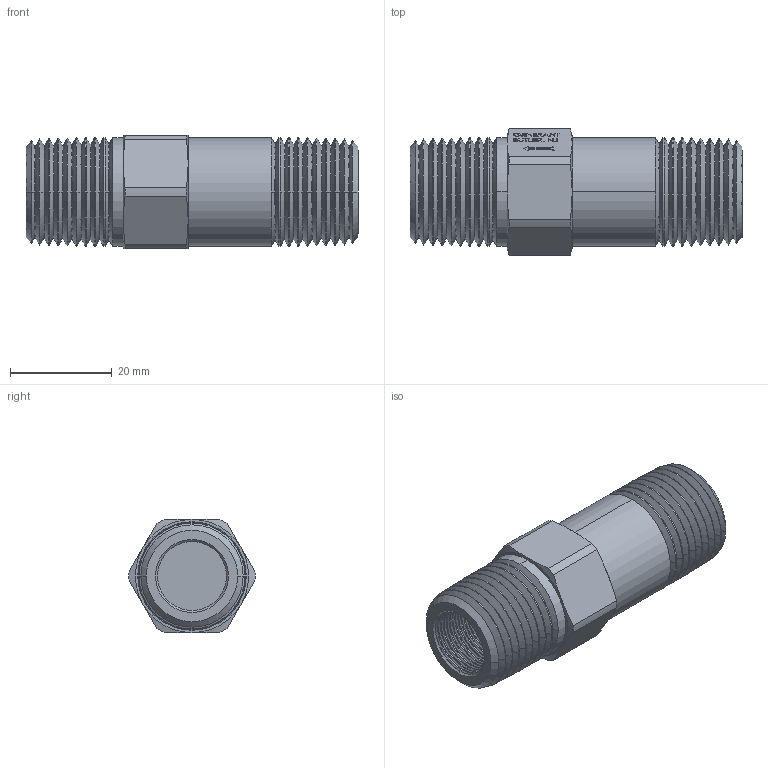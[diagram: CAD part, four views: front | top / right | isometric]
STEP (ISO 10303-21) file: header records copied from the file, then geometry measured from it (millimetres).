
FILE_DESCRIPTION (( 'STEP AP203' ), '1' );
FILE_NAME ('ACV-8P.STEP', '2013-04-16T13:19:20', ( '' ), ( '' ), 'SwSTEP 2.0', 'SolidWorks 2011', '' );
FILE_SCHEMA (( 'CONFIG_CONTROL_DESIGN' ));
Length unit declared in the file: inch
Products named in the file (2): ACV-8P; Part4^ACV-8P_CM
Assembly tree (1 placements, depth 2):
  ACV-8P
    Part4^ACV-8P_CM
Bounding box: 65.15 x 24.76 x 22.23 mm (x, y, z)
Volume: 16280.9 mm3; surface area: 9085.8 mm2
Topology: 1 solids, 1 shells, 710 faces, 1646 edges, 963 vertices
Faces by surface type: cone 302, plane 194, cylinder 174, bspline 40
Entity records: 22238 total; most frequent: CARTESIAN_POINT 5961, DIRECTION 3438, ORIENTED_EDGE 3288, EDGE_CURVE 1644, AXIS2_PLACEMENT_3D 1224, VECTOR 990, LINE 990, VERTEX_POINT 963
